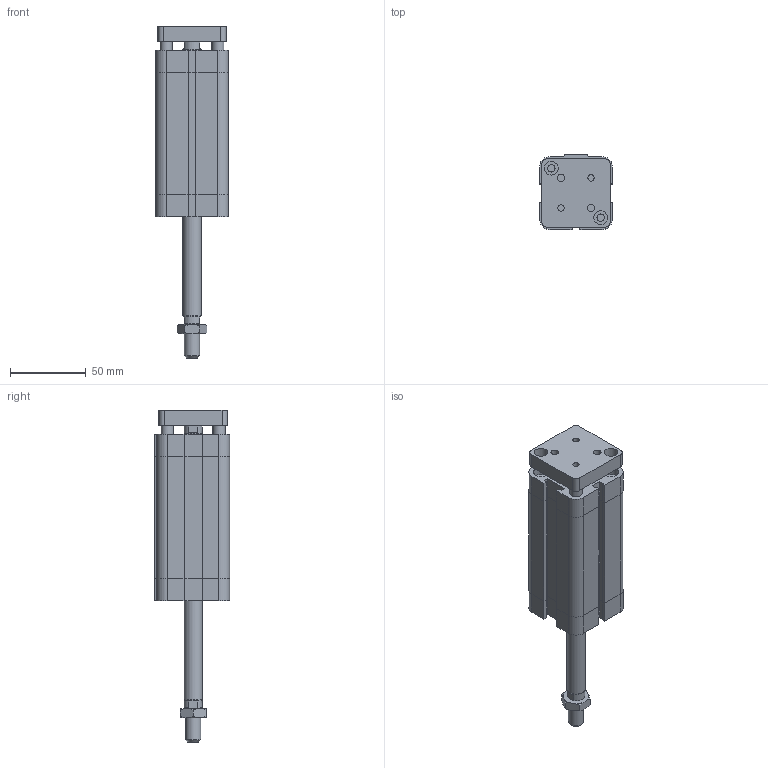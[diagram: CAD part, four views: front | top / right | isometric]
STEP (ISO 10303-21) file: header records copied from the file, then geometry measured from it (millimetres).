
FILE_DESCRIPTION((''),'2;1');
FILE_NAME('I:\Area Tecnica\Disegni\VARIE-3D\Componenti\EUROPE\15##_###_####_09_#\1561_32_0065_09_1.iam.stp','2009-04-20T15:36:20',(''),(''),'Autodesk Inventor 2009','Autodesk Inventor 2009','');
FILE_SCHEMA(('AUTOMOTIVE_DESIGN { 1 0 10303 214 1 1 1 1 }'));
Length unit declared in the file: millimetre
Products named in the file (4): 1561_32_0065_09_1; 1561_32_0065_08_1_C; 1561_32_0065_09_1_SA; DBFM10
Assembly tree (3 placements, depth 2):
  1561_32_0065_09_1
    1561_32_0065_08_1_C
    1561_32_0065_09_1_SA
    DBFM10
Bounding box: 48 x 49.5 x 218.5 mm (x, y, z)
Volume: 261223.6 mm3; surface area: 56647.4 mm2
Topology: 3 solids, 3 shells, 209 faces, 470 edges, 287 vertices
Faces by surface type: plane 120, bspline 45, cylinder 23, cone 21
Full cylindrical faces by diameter (mm): 8 x2, 8.8 x1, 10 x1, 11.7 x2, 12 x1
Entity records: 5963 total; most frequent: CARTESIAN_POINT 1453, DIRECTION 838, ORIENTED_EDGE 834, EDGE_CURVE 417, AXIS2_PLACEMENT_3D 282, EDGE_LOOP 282, VECTOR 274, LINE 274
